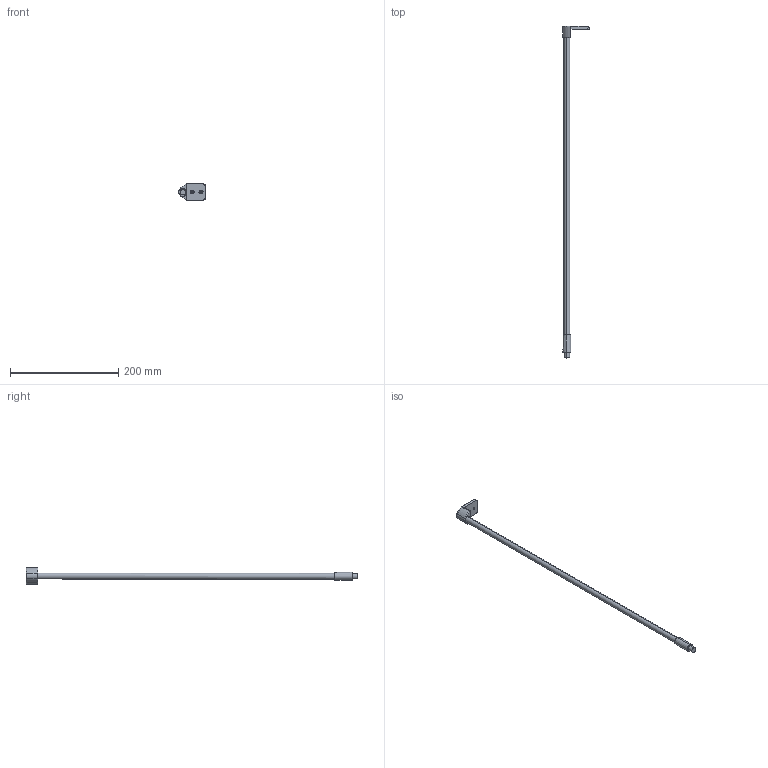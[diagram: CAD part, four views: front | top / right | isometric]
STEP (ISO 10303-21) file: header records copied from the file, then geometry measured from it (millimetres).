
FILE_DESCRIPTION (( 'STEP AP214' ), '1' );
FILE_NAME ('_2S_RUL_7107_NL600_LI.step', '2010-06-29T14:08:32', ( 'grass' ), ( '' ), 'SwSTEP 2.0', 'SolidWorks 2009', '' );
FILE_SCHEMA (( 'AUTOMOTIVE_DESIGN' ));
Length unit declared in the file: millimetre
Products named in the file (1): _2S_RUL_7107_NL600_LI
Bounding box: 49.5 x 613 x 30 mm (x, y, z)
Volume: 68499.1 mm3; surface area: 25795.6 mm2
Topology: 1 solids, 1 shells, 89 faces, 203 edges, 118 vertices
Faces by surface type: cylinder 32, plane 17, torus 16, bspline 16, cone 6, sphere 2
Entity records: 4566 total; most frequent: CARTESIAN_POINT 2608, DIRECTION 411, ORIENTED_EDGE 402, EDGE_CURVE 201, AXIS2_PLACEMENT_3D 172, VERTEX_POINT 118, CIRCLE 98, EDGE_LOOP 97
